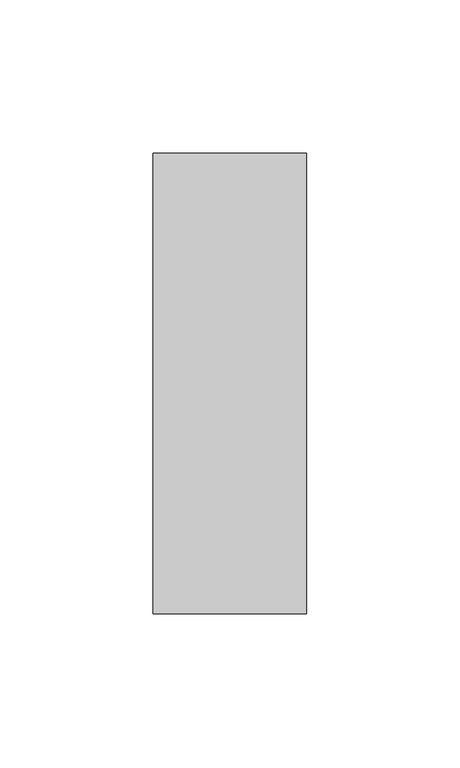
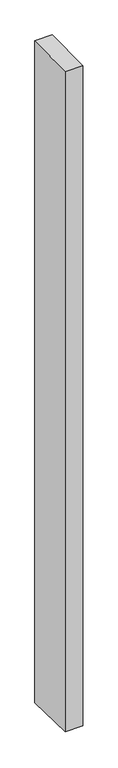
"""IFC4 building model written with IfcOpenShell, lengths in millimetres: member geometry, Прямоугольный импост : 50 x 150 мм."""

from ifc_helpers import new_model, si_unit, origin, place, context, project, spatial, faceted_brep, source, transform, mapped, element, save


def member_6c154174(model_context):
    return source(origin(), model_context, "Body", "Brep", [
        faceted_brep([(-25.0, 75.0, 0.9274797), (25.0, 75.0, 1.6042215), (25.0, 75.0, -2002.6569108), (-25.0, 75.0, -2001.9200356), (-25.0, -75.0, -1.6042215), (-25.0, -75.0, -1997.9057648), (25.0, -75.0, -0.9274797), (25.0, -75.0, -1998.6426399)], [[[0, 1, 2, 3]], [[4, 0, 3, 5]], [[6, 4, 5, 7]], [[1, 6, 7, 2]], [[1, 0, 4, 6]], [[2, 7, 5, 3]]]),
    ])


if __name__ == "__main__":
    model = new_model("IFC4")
    model_context = context("Model", 3, world=origin())
    ifc_project = project(units=[si_unit("LENGTHUNIT", "METRE", prefix="MILLI")], contexts=[model_context])
    site = spatial("IfcSite", under=ifc_project)
    building = spatial("IfcBuilding", under=site)
    placement = place(None, origin())
    member_shape = member_6c154174(model_context)
    element("IfcMember", 1, ObjectType="Прямоугольный импост : 50 x 150 мм", at=placement, inside=building, context=model_context, shape_type="MappedRepresentation", body=[
        mapped(member_shape, transform((0.0, 0.0, 0.0), x_axis=(1.0, 0.0, 0.0), y_axis=(0.0, 1.0, 0.0), z_axis=(0.0, 0.0, 1.0))),
    ])
    save(model, "model.ifc")
